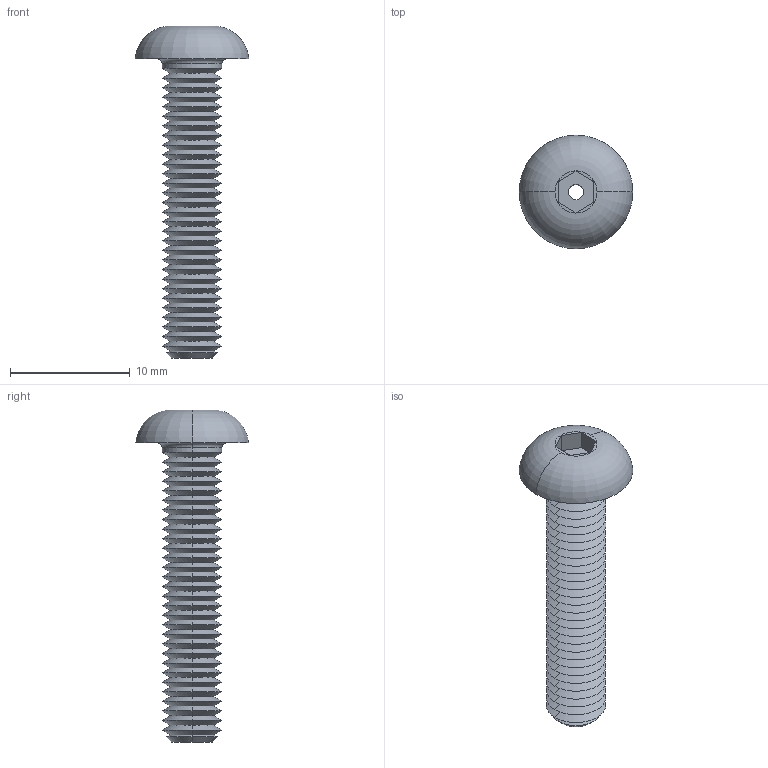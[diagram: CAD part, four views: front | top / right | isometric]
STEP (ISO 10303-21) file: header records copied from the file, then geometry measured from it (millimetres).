
FILE_DESCRIPTION (( 'STEP AP203' ), '1' );
FILE_NAME ('P0094.050-025-A2.step', '2019-07-12T16:54:21', ( '' ), ( '' ), 'SwSTEP 2.0', 'SolidWorks 2017', '' );
FILE_SCHEMA (( 'CONFIG_CONTROL_DESIGN' ));
Length unit declared in the file: millimetre
Products named in the file (1): P0094.050-025-A2
Bounding box: 9.5 x 9.5 x 27.75 mm (x, y, z)
Volume: 469.4 mm3; surface area: 952 mm2
Topology: 1 solids, 1 shells, 140 faces, 284 edges, 148 vertices
Faces by surface type: cone 122, plane 10, cylinder 4, torus 4
Entity records: 3637 total; most frequent: DIRECTION 706, CARTESIAN_POINT 573, ORIENTED_EDGE 568, EDGE_CURVE 284, AXIS2_PLACEMENT_3D 281, VERTEX_POINT 148, VECTOR 144, LINE 144
